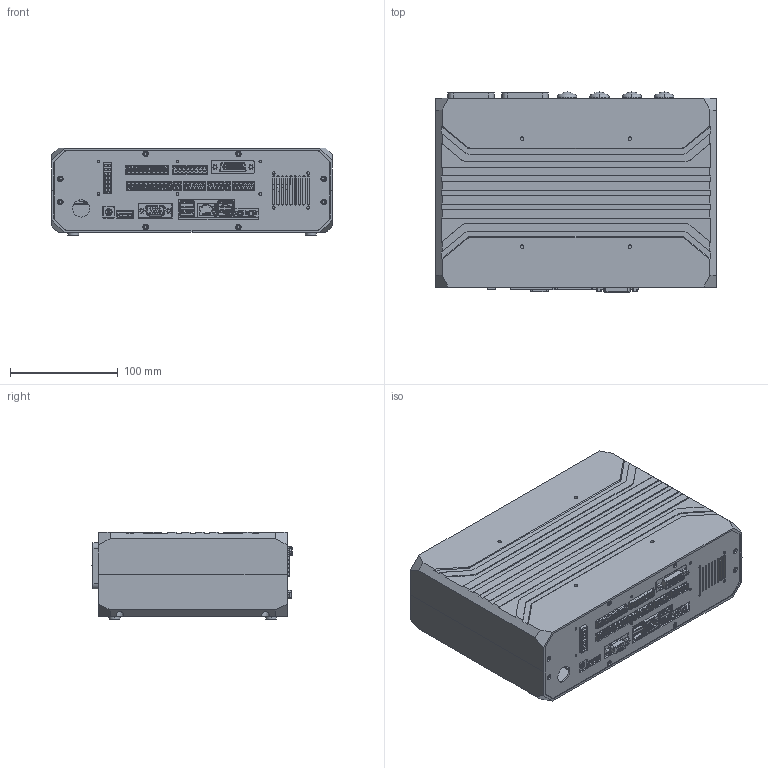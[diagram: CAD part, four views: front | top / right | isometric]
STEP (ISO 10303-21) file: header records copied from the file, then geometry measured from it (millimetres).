
FILE_DESCRIPTION (( 'STEP AP214' ), '1' );
FILE_NAME ('电脑运控一体控制器-电源分离.STEP', '2026-03-09T02:22:16', ( 'Windows User' ), ( 'P R C' ), 'SwSTEP 2.0', 'SolidWorks 2023', '' );
FILE_SCHEMA (( 'AUTOMOTIVE_DESIGN' ));
Length unit declared in the file: millimetre
Products named in the file (1): 电脑运控一体控制器-电源分离
Bounding box: 260 x 185.4 x 81 mm (x, y, z)
Surface area: 387808.2 mm2 (no closed solid volume)
Topology: 0 solids, 584 shells, 2955 faces, 14258 edges, 11763 vertices
Faces by surface type: plane 1777, cylinder 808, bspline 249, cone 61, torus 48, sphere 12
Entity records: 148733 total; most frequent: CARTESIAN_POINT 42742, DIRECTION 20020, ORIENTED_EDGE 18513, EDGE_CURVE 14254, VERTEX_POINT 11763, LINE 8334, VECTOR 8334, AXIS2_PLACEMENT_3D 5843
